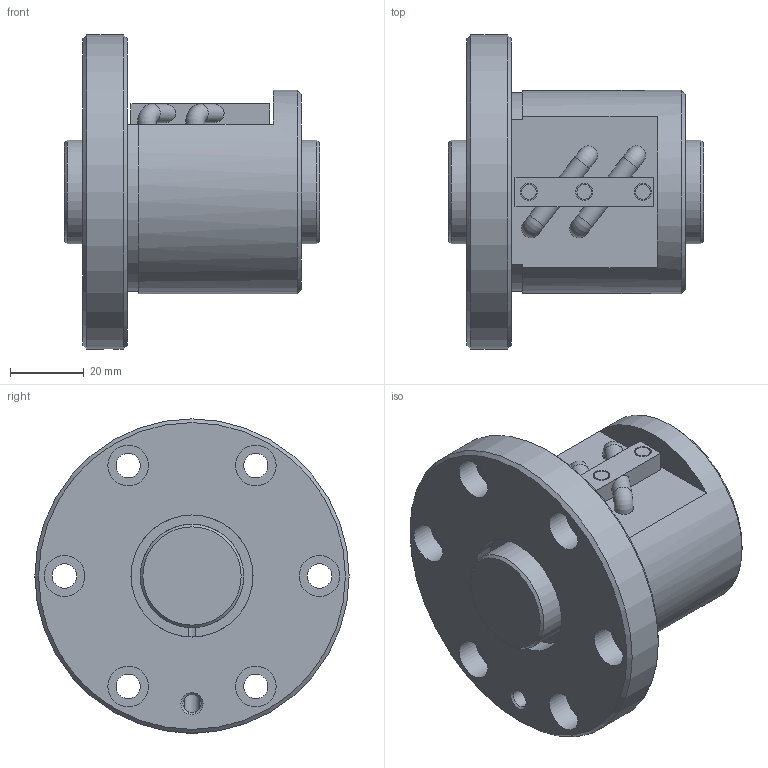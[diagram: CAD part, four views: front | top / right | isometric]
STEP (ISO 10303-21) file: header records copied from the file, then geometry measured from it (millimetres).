
FILE_DESCRIPTION(/* description */ ('STEP AP203'),/* implementation_level */ '2;1');
FILE_NAME(/* name */ 'BIF2805V-5RRG0+69LC0_000',/* time_stamp */ '2024-07-15T08:18:08+02:00',/* author */ ('License CC BY-ND 4.0'),/* organization */ ('CADENAS'),/* preprocessor_version */ 'ST-DEVELOPER v19.3',/* originating_system */ 'PARTsolutions',/* authorisation */ ' ');
FILE_SCHEMA (('CONFIG_CONTROL_DESIGN'));
Length unit declared in the file: millimetre
Products named in the file (3): BIF2805V-5RRG0+69LC0_000; BIF2805V-5RR000 Shaft; BIF2805V-5RR Nut
Assembly tree (2 placements, depth 2):
  BIF2805V-5RRG0+69LC0_000
    BIF2805V-5RR000 Shaft
    BIF2805V-5RR Nut
Bounding box: 69 x 85 x 85 mm (x, y, z)
Volume: 169636.3 mm3; surface area: 37205.4 mm2
Topology: 2 solids, 2 shells, 89 faces, 208 edges, 131 vertices
Faces by surface type: plane 41, cylinder 36, cone 8, torus 4
Full cylindrical faces by diameter (mm): 4 x3, 4.25 x2, 4.6 x3, 4.917 x1, 5.1 x4, 6.6 x6, 11 x6, 28 x2, 33 x2, 55 x1, 85 x1
Entity records: 2401 total; most frequent: CARTESIAN_POINT 455, DIRECTION 424, ORIENTED_EDGE 298, AXIS2_PLACEMENT_3D 194, EDGE_LOOP 164, FACE_BOUND 164, EDGE_CURVE 149, VERTEX_POINT 115
